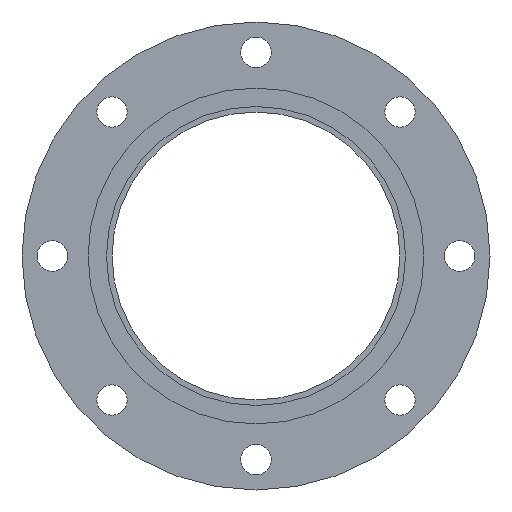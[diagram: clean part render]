
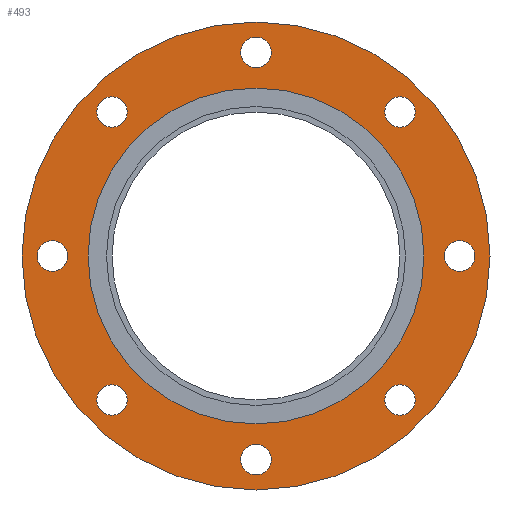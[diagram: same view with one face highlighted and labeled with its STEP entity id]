
A CAD part, left-side view. The second image highlights one B-rep face of the part: STEP entity #493.
In plain terms, the highlighted planar face has unit normal (-1, 0, 0).
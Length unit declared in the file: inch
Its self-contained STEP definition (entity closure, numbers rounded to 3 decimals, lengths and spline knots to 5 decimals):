
#49=FACE_BOUND('',#119,.T.);
#50=FACE_BOUND('',#120,.T.);
#51=FACE_BOUND('',#121,.T.);
#52=FACE_BOUND('',#122,.T.);
#53=FACE_BOUND('',#123,.T.);
#54=FACE_BOUND('',#124,.T.);
#55=FACE_BOUND('',#125,.T.);
#56=FACE_BOUND('',#126,.T.);
#57=FACE_BOUND('',#127,.T.);
#72=PLANE('',#571);
#92=FACE_OUTER_BOUND('',#118,.T.);
#118=EDGE_LOOP('',(#397,#398));
#119=EDGE_LOOP('',(#399));
#120=EDGE_LOOP('',(#400));
#121=EDGE_LOOP('',(#401));
#122=EDGE_LOOP('',(#402));
#123=EDGE_LOOP('',(#403));
#124=EDGE_LOOP('',(#404));
#125=EDGE_LOOP('',(#405));
#126=EDGE_LOOP('',(#406));
#127=EDGE_LOOP('',(#407,#408));
#173=CIRCLE('',#520,0.44);
#175=CIRCLE('',#523,0.44);
#177=CIRCLE('',#526,0.44);
#179=CIRCLE('',#529,0.44);
#181=CIRCLE('',#532,0.44);
#183=CIRCLE('',#535,0.44);
#185=CIRCLE('',#538,0.44);
#187=CIRCLE('',#541,0.44);
#206=CIRCLE('',#569,4.845);
#207=CIRCLE('',#570,4.845);
#208=CIRCLE('',#572,6.75);
#209=CIRCLE('',#573,6.75);
#217=VERTEX_POINT('',#776);
#219=VERTEX_POINT('',#782);
#221=VERTEX_POINT('',#788);
#223=VERTEX_POINT('',#794);
#225=VERTEX_POINT('',#800);
#227=VERTEX_POINT('',#806);
#229=VERTEX_POINT('',#812);
#231=VERTEX_POINT('',#818);
#250=VERTEX_POINT('',#870);
#251=VERTEX_POINT('',#871);
#252=VERTEX_POINT('',#876);
#253=VERTEX_POINT('',#877);
#262=EDGE_CURVE('',#217,#217,#173,.T.);
#265=EDGE_CURVE('',#219,#219,#175,.T.);
#268=EDGE_CURVE('',#221,#221,#177,.T.);
#271=EDGE_CURVE('',#223,#223,#179,.T.);
#274=EDGE_CURVE('',#225,#225,#181,.T.);
#277=EDGE_CURVE('',#227,#227,#183,.T.);
#280=EDGE_CURVE('',#229,#229,#185,.T.);
#283=EDGE_CURVE('',#231,#231,#187,.T.);
#306=EDGE_CURVE('',#250,#251,#206,.T.);
#307=EDGE_CURVE('',#251,#250,#207,.T.);
#309=EDGE_CURVE('',#252,#253,#208,.T.);
#310=EDGE_CURVE('',#253,#252,#209,.T.);
#397=ORIENTED_EDGE('',*,*,#309,.F.);
#398=ORIENTED_EDGE('',*,*,#310,.F.);
#399=ORIENTED_EDGE('',*,*,#262,.T.);
#400=ORIENTED_EDGE('',*,*,#265,.T.);
#401=ORIENTED_EDGE('',*,*,#268,.T.);
#402=ORIENTED_EDGE('',*,*,#271,.T.);
#403=ORIENTED_EDGE('',*,*,#274,.T.);
#404=ORIENTED_EDGE('',*,*,#277,.T.);
#405=ORIENTED_EDGE('',*,*,#280,.T.);
#406=ORIENTED_EDGE('',*,*,#283,.T.);
#407=ORIENTED_EDGE('',*,*,#306,.T.);
#408=ORIENTED_EDGE('',*,*,#307,.T.);
#493=ADVANCED_FACE('',(#92,#49,#50,#51,#52,#53,#54,#55,#56,#57),#72,.T.);
#520=AXIS2_PLACEMENT_3D('',#778,#604,#605);
#523=AXIS2_PLACEMENT_3D('',#784,#611,#612);
#526=AXIS2_PLACEMENT_3D('',#790,#618,#619);
#529=AXIS2_PLACEMENT_3D('',#796,#625,#626);
#532=AXIS2_PLACEMENT_3D('',#802,#632,#633);
#535=AXIS2_PLACEMENT_3D('',#808,#639,#640);
#538=AXIS2_PLACEMENT_3D('',#814,#646,#647);
#541=AXIS2_PLACEMENT_3D('',#820,#653,#654);
#569=AXIS2_PLACEMENT_3D('',#872,#713,#714);
#570=AXIS2_PLACEMENT_3D('',#873,#715,#716);
#571=AXIS2_PLACEMENT_3D('',#875,#718,#719);
#572=AXIS2_PLACEMENT_3D('',#878,#720,#721);
#573=AXIS2_PLACEMENT_3D('',#879,#722,#723);
#604=DIRECTION('center_axis',(1.,0.,0.));
#605=DIRECTION('ref_axis',(0.,0.707,0.707));
#611=DIRECTION('center_axis',(1.,0.,0.));
#612=DIRECTION('ref_axis',(0.,1.,0.));
#618=DIRECTION('center_axis',(1.,0.,0.));
#619=DIRECTION('ref_axis',(0.,0.707,-0.707));
#625=DIRECTION('center_axis',(1.,0.,0.));
#626=DIRECTION('ref_axis',(0.,0.,-1.));
#632=DIRECTION('center_axis',(1.,0.,0.));
#633=DIRECTION('ref_axis',(0.,-0.707,-0.707));
#639=DIRECTION('center_axis',(1.,0.,0.));
#640=DIRECTION('ref_axis',(0.,-1.,0.));
#646=DIRECTION('center_axis',(1.,0.,0.));
#647=DIRECTION('ref_axis',(0.,-0.707,0.707));
#653=DIRECTION('center_axis',(1.,0.,0.));
#654=DIRECTION('ref_axis',(0.,0.,1.));
#713=DIRECTION('center_axis',(1.,0.,0.));
#714=DIRECTION('ref_axis',(0.,0.,-1.));
#715=DIRECTION('center_axis',(1.,0.,0.));
#716=DIRECTION('ref_axis',(0.,0.,-1.));
#718=DIRECTION('center_axis',(-1.,0.,0.));
#719=DIRECTION('ref_axis',(0.,0.,1.));
#720=DIRECTION('center_axis',(1.,0.,0.));
#721=DIRECTION('ref_axis',(0.,0.,-1.));
#722=DIRECTION('center_axis',(1.,0.,0.));
#723=DIRECTION('ref_axis',(0.,0.,-1.));
#776=CARTESIAN_POINT('',(-1.1225,3.84313,-4.46538));
#778=CARTESIAN_POINT('Origin',(-1.1225,4.15425,-4.15425));
#782=CARTESIAN_POINT('',(-1.1225,-0.44,-5.875));
#784=CARTESIAN_POINT('Origin',(-1.1225,0.,-5.875));
#788=CARTESIAN_POINT('',(-1.1225,-4.46538,-3.84313));
#790=CARTESIAN_POINT('Origin',(-1.1225,-4.15425,-4.15425));
#794=CARTESIAN_POINT('',(-1.1225,-5.875,0.44));
#796=CARTESIAN_POINT('Origin',(-1.1225,-5.875,0.));
#800=CARTESIAN_POINT('',(-1.1225,-3.84313,4.46538));
#802=CARTESIAN_POINT('Origin',(-1.1225,-4.15425,4.15425));
#806=CARTESIAN_POINT('',(-1.1225,0.44,5.875));
#808=CARTESIAN_POINT('Origin',(-1.1225,0.,5.875));
#812=CARTESIAN_POINT('',(-1.1225,4.46538,3.84313));
#814=CARTESIAN_POINT('Origin',(-1.1225,4.15425,4.15425));
#818=CARTESIAN_POINT('',(-1.1225,5.875,-0.44));
#820=CARTESIAN_POINT('Origin',(-1.1225,5.875,0.));
#870=CARTESIAN_POINT('',(-1.1225,4.845,0.));
#871=CARTESIAN_POINT('',(-1.1225,-4.845,0.));
#872=CARTESIAN_POINT('Origin',(-1.1225,0.,0.));
#873=CARTESIAN_POINT('Origin',(-1.1225,0.,0.));
#875=CARTESIAN_POINT('Origin',(-1.1225,6.75,0.));
#876=CARTESIAN_POINT('',(-1.1225,6.75,0.));
#877=CARTESIAN_POINT('',(-1.1225,-6.75,0.));
#878=CARTESIAN_POINT('Origin',(-1.1225,0.,0.));
#879=CARTESIAN_POINT('Origin',(-1.1225,0.,0.));
